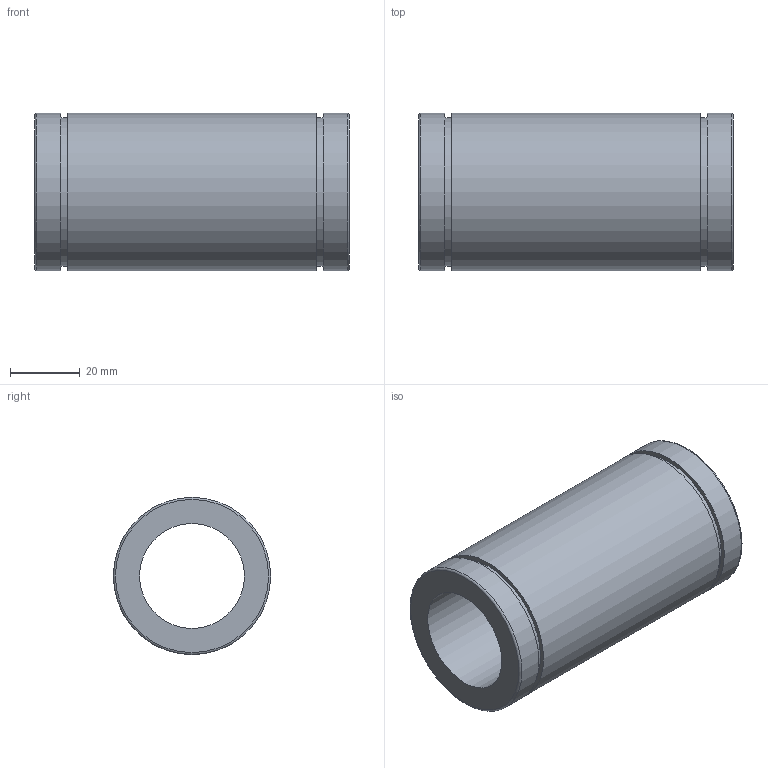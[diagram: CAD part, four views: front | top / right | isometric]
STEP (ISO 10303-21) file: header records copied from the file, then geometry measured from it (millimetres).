
FILE_DESCRIPTION(('STEP AP203'),'1');
FILE_NAME('//192.168.1.1/share/s-4 技術開発/s-4-13_CAD/03_見直し済み/001 修正済み/N-VM/N-VM_STEP/N-30VM.step','2020-04-08T00:10:36',(' '),(' '),'Spatial InterOp 3D',' ',' ');
FILE_SCHEMA(('CONFIG_CONTROL_DESIGN'));
Length unit declared in the file: millimetre
Products named in the file (1): 1
Bounding box: 90 x 45 x 45 mm (x, y, z)
Volume: 78847 mm3; surface area: 23557.1 mm2
Topology: 1 solids, 1 shells, 14 faces, 22 edges, 14 vertices
Faces by surface type: plane 6, cylinder 6, torus 2
Full cylindrical faces by diameter (mm): 30 x1, 42.5 x2, 45 x3
Entity records: 332 total; most frequent: DIRECTION 58, CARTESIAN_POINT 43, AXIS2_PLACEMENT_3D 29, EDGE_LOOP 28, ORIENTED_EDGE 28, FACE_OUTER_BOUND 22, ADVANCED_FACE 14, EDGE_CURVE 14
